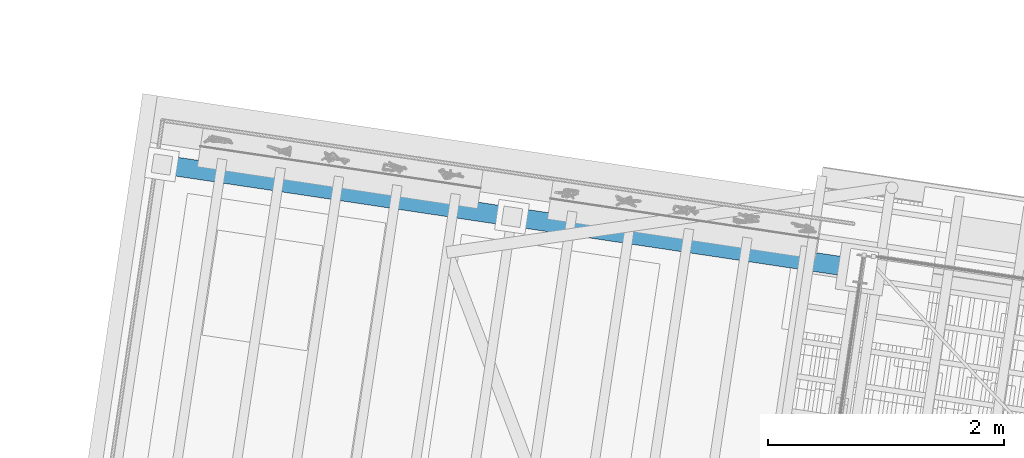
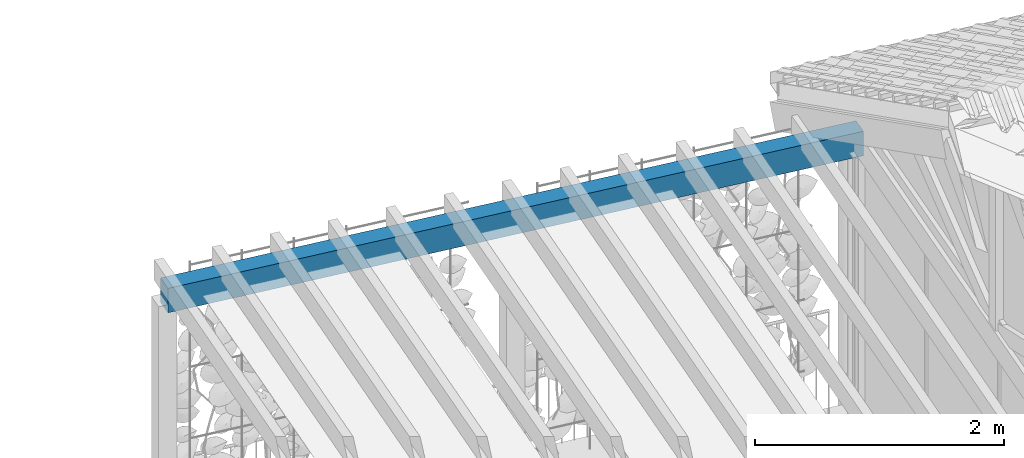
# One storey, part 30 of 128: 1 beam, 1 element without a shape of its own.
"""IFC4 building model written with IfcOpenShell, lengths in metres."""

import ifcopenshell
import ifcopenshell.guid

model = None  # the IFC model being written
_history = None  # IfcOwnerHistory: only IFC2X3 demands one
_inside = {}  # id of a spatial element -> (the spatial element, [elements in it])
_under = {}  # id of a project, library or spatial element -> (it, [spatial elements below it])
_declared = {}  # id of a project -> (the project, [libraries it declares])
_typed = {}  # id of a type object -> (the type object, [elements of that type])
_made_of = {}  # id of a material, layer set ... -> (it, [elements and type objects made of it])


def new_model(schema):
    """Start an empty IFC model of exactly this schema.

    Asked for "IFC4X3", IfcOpenShell would pick the latest addendum, in which some entities
    have other attributes; the version numbers below select the first issue.
    IFC2X3 requires an IfcOwnerHistory on every rooted entity: one is made here for all.
    """
    global model, _history
    if schema == "IFC4X3":
        model = ifcopenshell.file(schema_version=(4, 3, 0, 0))
    else:
        model = ifcopenshell.file(schema=schema)
    _inside.clear()
    _under.clear()
    _declared.clear()
    _typed.clear()
    _made_of.clear()
    _history = None
    if model.schema == "IFC2X3":
        org = make("IfcOrganization", Name="unknown")
        user = make(
            "IfcPersonAndOrganization",
            ThePerson=make("IfcPerson", FamilyName="unknown"),
            TheOrganization=org,
        )
        app = make(
            "IfcApplication",
            ApplicationDeveloper=org,
            Version="unknown",
            ApplicationFullName="unknown",
            ApplicationIdentifier="unknown",
        )
        _history = make(
            "IfcOwnerHistory",
            OwningUser=user,
            OwningApplication=app,
            ChangeAction="ADDED",
            CreationDate=0,
        )
    return model


def make(cls, **values):
    """One entity of the class cls with the attributes given. An attribute that is None is left unset."""
    return model.create_entity(
        cls, **{name: value for name, value in values.items() if value is not None}
    )


def rooted(cls, **values):
    """An entity with a GlobalId (a new one), such as an element, a storey or a relation."""
    return make(cls, GlobalId=ifcopenshell.guid.new(), OwnerHistory=_history, **values)


def si_unit(unit_type, name, prefix=None):
    """IfcSIUnit, for example si_unit("LENGTHUNIT", "METRE", prefix="MILLI")."""
    return make("IfcSIUnit", UnitType=unit_type, Prefix=prefix, Name=name)


def assignment(units):
    """IfcUnitAssignment: the units of a project."""
    return None if units is None else make("IfcUnitAssignment", Units=units)


def point(xyz):
    """IfcCartesianPoint."""
    return None if xyz is None else make("IfcCartesianPoint", Coordinates=xyz)


def direction(xyz):
    """IfcDirection."""
    return None if xyz is None else make("IfcDirection", DirectionRatios=xyz)


def frame(location, z_axis=None, x_axis=None):
    """IfcAxis2Placement3D, a coordinate frame: its origin and axes. An axis left out is left unset."""
    return make(
        "IfcAxis2Placement3D",
        Location=point(location),
        Axis=direction(z_axis),
        RefDirection=direction(x_axis),
    )


def origin_with_axes():
    """The frame at (0, 0, 0) with the z axis (0, 0, 1) and the x axis (1, 0, 0) written out."""
    return frame((0.0, 0.0, 0.0), z_axis=(0.0, 0.0, 1.0), x_axis=(1.0, 0.0, 0.0))


def place(relative_to, where):
    """IfcLocalPlacement: puts the frame where relative to a parent placement (None: the world)."""
    return make(
        "IfcLocalPlacement", PlacementRelTo=relative_to, RelativePlacement=where
    )


def context(
    kind, dimensions, precision=None, world=None, true_north=None, identifier=None
):
    """IfcGeometricRepresentationContext, for example the 3D "Model" context."""
    return make(
        "IfcGeometricRepresentationContext",
        ContextIdentifier=identifier,
        ContextType=kind,
        CoordinateSpaceDimension=dimensions,
        Precision=precision,
        WorldCoordinateSystem=world,
        TrueNorth=true_north,
    )


def subcontext(parent, identifier, kind, view, scale=None):
    """IfcGeometricRepresentationSubContext, for example "Body" below "Model"."""
    return make(
        "IfcGeometricRepresentationSubContext",
        ContextIdentifier=identifier,
        ContextType=kind,
        ParentContext=parent,
        TargetScale=scale,
        TargetView=view,
    )


def project(units=None, contexts=None):
    """IfcProject with its units and contexts."""
    return rooted(
        "IfcProject",
        Name="project",
        RepresentationContexts=contexts,
        UnitsInContext=assignment(units),
    )


def spatial(cls, under=None, at=None, **own):
    """A site, building, storey or space (cls), placed at a placement, below another one or the project."""
    s = rooted(cls, ObjectPlacement=at, **own)
    if under is not None:
        _under.setdefault(under.id(), (under, []))[1].append(s)
    return s


def profile(cls, at=None, kind="AREA", **sizes):
    """A parametric profile (cls). Its sizes go by their IFC names, for example OverallWidth=200.0."""
    return make(cls, ProfileType=kind, Position=at, **sizes)


def rectangle(**sizes):
    """IfcRectangleProfileDef."""
    return profile("IfcRectangleProfileDef", **sizes)


def extrude(swept, where, along, depth):
    """IfcExtrudedAreaSolid: the profile swept, set in the frame where, extruded along a direction by depth."""
    return make(
        "IfcExtrudedAreaSolid",
        SweptArea=swept,
        Position=where,
        ExtrudedDirection=direction(along),
        Depth=depth,
    )


def shape(context_of_items, identifier, shape_type, items):
    """IfcShapeRepresentation: the items that make up one representation, for example the "Body"."""
    return make(
        "IfcShapeRepresentation",
        ContextOfItems=context_of_items,
        RepresentationIdentifier=identifier,
        RepresentationType=shape_type,
        Items=items,
    )


def material(Name=None, Category=None):
    """IfcMaterial."""
    return make("IfcMaterial", Name=Name, Category=Category)


def material_profile(
    of_material, cross_section, Name=None, Category=None, Priority=None
):
    """IfcMaterialProfile: a cross section and its material."""
    return make(
        "IfcMaterialProfile",
        Name=Name,
        Material=of_material,
        Profile=cross_section,
        Priority=Priority,
        Category=Category,
    )


def profile_set(profiles, Name=None, composite=None):
    """IfcMaterialProfileSet."""
    return make(
        "IfcMaterialProfileSet",
        Name=Name,
        MaterialProfiles=profiles,
        CompositeProfile=composite,
    )


def profile_usage(for_profile_set, cardinal=None, extent=None):
    """IfcMaterialProfileSetUsage: how a profile set lies along its element."""
    return make(
        "IfcMaterialProfileSetUsage",
        ForProfileSet=for_profile_set,
        CardinalPoint=cardinal,
        ReferenceExtent=extent,
    )


def made_of(thing, what):
    """Note that an element or type object is made of a material, layer set ...; save() writes the relation."""
    if what is not None:
        _made_of.setdefault(what.id(), (what, []))[1].append(thing)
    return thing


def type_object(cls, material=None, **own):
    """A type object (cls), such as IfcWallType, which elements share."""
    return made_of(rooted(cls, **own), material)


def element(
    cls,
    number,
    at=None,
    inside=None,
    cuts=None,
    type_object=None,
    material=None,
    context=None,
    identifier="Body",
    shape_type=None,
    held_by="IfcProductDefinitionShape",
    body=None,
    shapes=None,
    **own,
):
    """One element of the class cls, such as IfcWall. Its Tag is "e" and its number.

    at: its placement. inside: the storey or other place that contains it. cuts: it is an
    opening in that element (IfcRelVoidsElement). A single representation is given by context,
    identifier, shape_type and body (its items); several are given by shapes. held_by: the class
    of the entity that holds the representations. save() writes the other relations.
    """
    e = rooted(cls, Tag="e%d" % number, ObjectPlacement=at, **own)
    if body is not None:
        shapes = [shape(context, identifier, shape_type, body)]
    if shapes is not None:
        e.Representation = make(held_by, Representations=shapes)
    if inside is not None:
        _inside.setdefault(inside.id(), (inside, []))[1].append(e)
    if cuts is not None:
        rooted(
            "IfcRelVoidsElement", RelatingBuildingElement=cuts, RelatedOpeningElement=e
        )
    if type_object is not None:
        _typed.setdefault(type_object.id(), (type_object, []))[1].append(e)
    return made_of(e, material)


def aggregate(whole, parts):
    """IfcRelAggregates: a whole, such as a stair, and the parts it consists of."""
    return rooted("IfcRelAggregates", RelatingObject=whole, RelatedObjects=parts)


def save(model, path):
    """Write the relations noted so far, then the file.

    IfcRelAggregates (storeys below a building ...), IfcRelContainedInSpatialStructure (elements
    in a storey), IfcRelDefinesByType, IfcRelAssociatesMaterial and IfcRelDeclares: one each for
    every whole, place, type object, material and project.
    """
    for whole, parts in _under.values():
        aggregate(whole, parts)
    for where, things in _inside.values():
        rooted(
            "IfcRelContainedInSpatialStructure",
            RelatedElements=things,
            RelatingStructure=where,
        )
    for kind, things in _typed.values():
        rooted("IfcRelDefinesByType", RelatedObjects=things, RelatingType=kind)
    for what, things in _made_of.values():
        rooted("IfcRelAssociatesMaterial", RelatedObjects=things, RelatingMaterial=what)
    for by, libraries in _declared.values():
        rooted("IfcRelDeclares", RelatingContext=by, RelatedDefinitions=libraries)
    model.write(path)


model = new_model("IFC4")

# Units and contexts
model_context = context("Model", 3, precision=1e-05, world=origin_with_axes(), true_north=direction((0.0, 1.0)))
body_context = subcontext(model_context, "Body", "Model", "MODEL_VIEW")
ifc_project = project(units=[si_unit("VOLUMEUNIT", "CUBIC_METRE"), si_unit("LENGTHUNIT", "METRE"), si_unit("AREAUNIT", "SQUARE_METRE")], contexts=[model_context])

# Site, building, storey
site_placement = place(None, origin_with_axes())
site = spatial("IfcSite", under=ifc_project, at=site_placement, Name="Lares · Rua das Mercês · artigo 4771")
building_placement = place(site_placement, frame((15.0, 9.7, 13.9), z_axis=(0.0, 0.0, 1.0), x_axis=(0.989015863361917, -0.147809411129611, 0.0)))
building = spatial("IfcBuilding", under=site, at=building_placement, Name="Casa Sobreposta")
storey_placement = place(building_placement, origin_with_axes())
storey = spatial("IfcBuildingStorey", under=building, at=storey_placement, Name="00 · Habitação e estacionamento", Elevation=13.9)

# Assembly, beam
assembly_placement = place(storey_placement, origin_with_axes())
assembly = element("IfcElementAssembly", 1, at=assembly_placement, inside=storey, Name="Pérgola de madeira · pátio 6 m", ObjectType="TIMBER_PATIO_PERGOLA", PredefinedType="USERDEFINED")
ifc_material = material(Name="Madeira / Bauholz", Category="wood")
ifc_material_profile = material_profile(ifc_material, rectangle(XDim=0.16, YDim=0.24))
ifc_profile_set = profile_set([ifc_material_profile], Name="TIMBER0.160x0.240")
ifc_profile_usage = profile_usage(ifc_profile_set)
beam_type = type_object("IfcBeamType", Name="TIMBER0.160x0.240 / timber", PredefinedType="NOTDEFINED", material=ifc_profile_set)
beam_placement = place(assembly_placement, frame((-6.0, 6.28, 2.96), z_axis=(1.0, 0.0, 0.0), x_axis=(0.0, -1.0, 0.0)))
beam = element("IfcBeam", 2, at=beam_placement, type_object=beam_type, material=ifc_profile_usage, Name="Pérgola · viga", context=body_context, shape_type="SweptSolid", body=[
    extrude(rectangle(XDim=0.16, YDim=0.24), origin_with_axes(), (0.0, 0.0, 1.0), 6.0),
])
aggregate(assembly, [beam])

save(model, "model.ifc")
